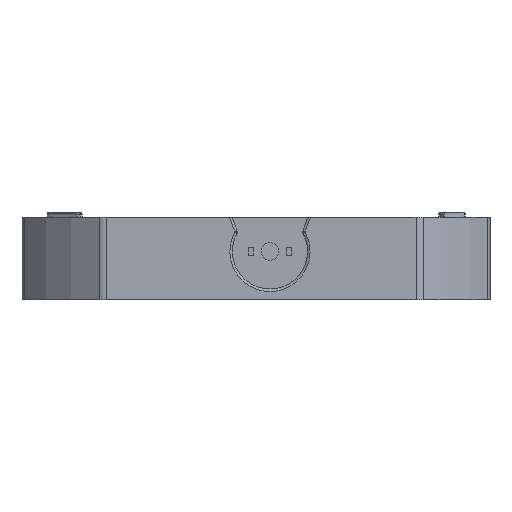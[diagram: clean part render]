
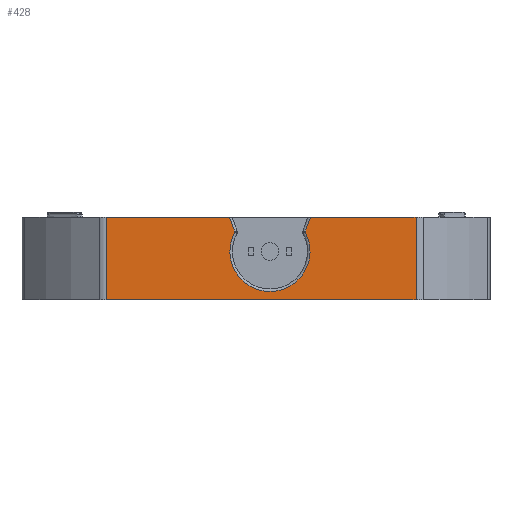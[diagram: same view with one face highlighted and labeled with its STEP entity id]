
A CAD part, left-side view. The second image highlights one B-rep face of the part: STEP entity #428.
In plain terms, the highlighted planar face has unit normal (-1, 0, 0).
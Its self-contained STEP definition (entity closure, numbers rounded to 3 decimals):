
#249=FACE_OUTER_BOUND('',#865,.T.);
#428=ADVANCED_FACE('',(#249),#609,.T.);
#609=PLANE('',#3999);
#865=EDGE_LOOP('',(#1680,#1681,#1682,#1683,#1684,#1685,#1686,#1687));
#1173=CIRCLE('',#3998,15.8);
#1680=ORIENTED_EDGE('',*,*,#2978,.T.);
#1681=ORIENTED_EDGE('',*,*,#2979,.T.);
#1682=ORIENTED_EDGE('',*,*,#2901,.F.);
#1683=ORIENTED_EDGE('',*,*,#2976,.T.);
#1684=ORIENTED_EDGE('',*,*,#2736,.F.);
#1685=ORIENTED_EDGE('',*,*,#2973,.T.);
#1686=ORIENTED_EDGE('',*,*,#2909,.F.);
#1687=ORIENTED_EDGE('',*,*,#2980,.T.);
#2372=VERTEX_POINT('',#5514);
#2373=VERTEX_POINT('',#5516);
#2503=VERTEX_POINT('',#5830);
#2504=VERTEX_POINT('',#5831);
#2509=VERTEX_POINT('',#5843);
#2510=VERTEX_POINT('',#5845);
#2552=VERTEX_POINT('',#5985);
#2553=VERTEX_POINT('',#5986);
#2736=EDGE_CURVE('',#2372,#2373,#3210,.T.);
#2901=EDGE_CURVE('',#2503,#2504,#3316,.T.);
#2909=EDGE_CURVE('',#2509,#2510,#3322,.T.);
#2973=EDGE_CURVE('',#2372,#2510,#3364,.T.);
#2976=EDGE_CURVE('',#2503,#2373,#3367,.T.);
#2978=EDGE_CURVE('',#2552,#2553,#1173,.T.);
#2979=EDGE_CURVE('',#2553,#2504,#3369,.T.);
#2980=EDGE_CURVE('',#2509,#2552,#3370,.T.);
#3210=LINE('',#5515,#3544);
#3316=LINE('',#5829,#3650);
#3322=LINE('',#5844,#3656);
#3364=LINE('',#5975,#3698);
#3367=LINE('',#5979,#3701);
#3369=LINE('',#5987,#3703);
#3370=LINE('',#5988,#3704);
#3544=VECTOR('',#4368,1.);
#3650=VECTOR('',#4630,1.);
#3656=VECTOR('',#4640,1.);
#3698=VECTOR('',#4776,1.);
#3701=VECTOR('',#4781,1.);
#3703=VECTOR('',#4791,1.);
#3704=VECTOR('',#4792,1.);
#3998=AXIS2_PLACEMENT_3D('',#5984,#4789,#4790);
#3999=AXIS2_PLACEMENT_3D('',#5989,#4793,#4794);
#4368=DIRECTION('',(0.,1.,0.));
#4630=DIRECTION('',(0.,-1.,0.));
#4640=DIRECTION('',(0.,-1.,0.));
#4776=DIRECTION('',(0.,0.,1.));
#4781=DIRECTION('',(0.,0.,-1.));
#4789=DIRECTION('',(1.,0.,0.));
#4790=DIRECTION('',(0.,0.,1.));
#4791=DIRECTION('',(0.,0.342,0.94));
#4792=DIRECTION('',(0.,0.342,-0.94));
#4793=DIRECTION('',(-1.,0.,0.));
#4794=DIRECTION('',(0.,0.,1.));
#5514=CARTESIAN_POINT('',(-6.912,7.455,2.5));
#5515=CARTESIAN_POINT('',(-6.912,68.063,2.5));
#5516=CARTESIAN_POINT('',(-6.912,129.556,2.5));
#5829=CARTESIAN_POINT('',(-6.912,6.491,34.9));
#5830=CARTESIAN_POINT('',(-6.912,129.556,34.9));
#5831=CARTESIAN_POINT('',(-6.912,80.941,34.9));
#5843=CARTESIAN_POINT('',(-6.912,49.059,34.9));
#5844=CARTESIAN_POINT('',(-6.912,6.491,34.9));
#5845=CARTESIAN_POINT('',(-6.912,7.455,34.9));
#5975=CARTESIAN_POINT('',(-6.912,7.455,32.5));
#5979=CARTESIAN_POINT('',(-6.912,129.556,32.5));
#5984=CARTESIAN_POINT('',(-6.912,65.,21.5));
#5985=CARTESIAN_POINT('',(-6.912,51.162,29.125));
#5986=CARTESIAN_POINT('',(-6.912,78.838,29.125));
#5987=CARTESIAN_POINT('',(-6.912,80.816,34.558));
#5988=CARTESIAN_POINT('',(-6.912,51.162,29.125));
#5989=CARTESIAN_POINT('',(-6.912,6.491,32.5));
